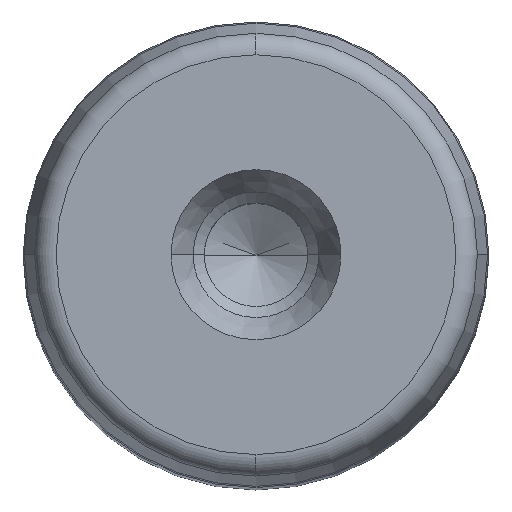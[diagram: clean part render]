
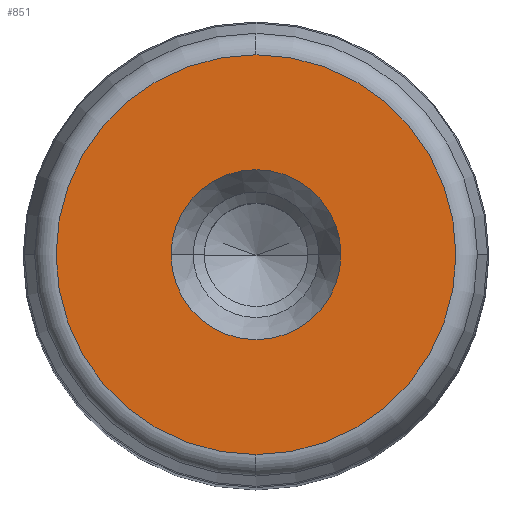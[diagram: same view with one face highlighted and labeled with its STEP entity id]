
A CAD part, top view. The second image highlights one B-rep face of the part: STEP entity #851.
In plain terms, the highlighted planar face has unit normal (0, 0, 1) as drawn and (0, 1, 0) by its records, which use the part's own axes.
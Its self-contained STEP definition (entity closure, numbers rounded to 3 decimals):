
#281=CARTESIAN_POINT('',(11.5,200.0,0.0));
#282=VERTEX_POINT('',#281);
#289=CARTESIAN_POINT('',(-11.5,200.0,0.));
#290=VERTEX_POINT('',#289);
#291=CARTESIAN_POINT('',(0.0,200.0,0.0));
#292=DIRECTION('',(0.0,1.0,0.0));
#293=DIRECTION('',(1.0,0.0,0.0));
#294=AXIS2_PLACEMENT_3D('',#291,#292,#293);
#295=CIRCLE('',#294,11.5);
#296=EDGE_CURVE('',#282,#290,#295,.T.);
#313=CARTESIAN_POINT('',(0.0,200.0,27.054));
#314=VERTEX_POINT('',#313);
#324=CARTESIAN_POINT('',(0.,200.0,-27.054));
#325=VERTEX_POINT('',#324);
#326=CARTESIAN_POINT('',(0.0,200.0,0.0));
#327=DIRECTION('',(0.0,1.0,0.0));
#328=DIRECTION('',(1.0,0.0,0.0));
#329=AXIS2_PLACEMENT_3D('',#326,#327,#328);
#330=CIRCLE('',#329,27.054);
#331=EDGE_CURVE('',#325,#314,#330,.T.);
#812=CARTESIAN_POINT('',(27.054,200.0,0.0));
#813=VERTEX_POINT('',#812);
#814=CARTESIAN_POINT('',(0.0,200.0,0.0));
#815=DIRECTION('',(0.0,1.0,0.0));
#816=DIRECTION('',(1.0,0.0,0.0));
#817=AXIS2_PLACEMENT_3D('',#814,#815,#816);
#818=CIRCLE('',#817,27.054);
#819=EDGE_CURVE('',#813,#325,#818,.T.);
#821=CARTESIAN_POINT('',(0.0,200.0,0.0));
#822=DIRECTION('',(0.0,1.0,0.0));
#823=DIRECTION('',(1.0,0.0,0.0));
#824=AXIS2_PLACEMENT_3D('',#821,#822,#823);
#825=CIRCLE('',#824,27.054);
#826=EDGE_CURVE('',#314,#813,#825,.T.);
#831=CARTESIAN_POINT('',(-29.76,200.0,-29.76));
#832=DIRECTION('',(0.0,1.0,0.0));
#833=DIRECTION('',(0.0,0.0,1.0));
#834=AXIS2_PLACEMENT_3D('',#831,#832,#833);
#835=PLANE('',#834);
#836=ORIENTED_EDGE('',*,*,#819,.T.);
#837=ORIENTED_EDGE('',*,*,#331,.T.);
#838=ORIENTED_EDGE('',*,*,#826,.T.);
#839=EDGE_LOOP('',(#836,#837,#838));
#840=FACE_OUTER_BOUND('',#839,.T.);
#841=ORIENTED_EDGE('',*,*,#296,.F.);
#842=CARTESIAN_POINT('',(0.0,200.0,0.0));
#843=DIRECTION('',(0.0,1.0,0.0));
#844=DIRECTION('',(1.0,0.0,0.0));
#845=AXIS2_PLACEMENT_3D('',#842,#843,#844);
#846=CIRCLE('',#845,11.5);
#847=EDGE_CURVE('',#290,#282,#846,.T.);
#848=ORIENTED_EDGE('',*,*,#847,.F.);
#849=EDGE_LOOP('',(#841,#848));
#850=FACE_BOUND('',#849,.T.);
#851=ADVANCED_FACE('',(#840,#850),#835,.T.);
